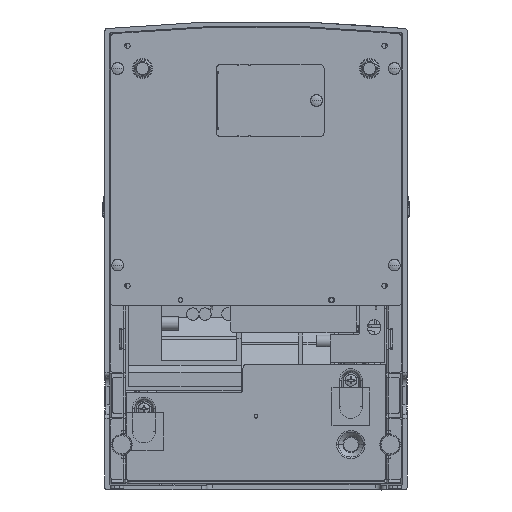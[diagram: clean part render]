
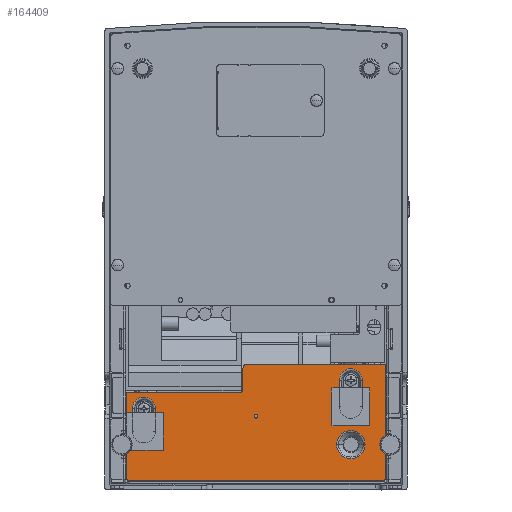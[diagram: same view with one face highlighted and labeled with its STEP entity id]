
A CAD part, front view. The second image highlights one B-rep face of the part: STEP entity #164409.
In plain terms, the highlighted planar face has unit normal (0, -1, 0).
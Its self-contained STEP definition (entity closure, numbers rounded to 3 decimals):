
#154114=CARTESIAN_POINT('',(0.,-56.4,-104.));
#154115=DIRECTION('',(0.,1.,0.));
#154116=DIRECTION('',(-1.,0.,0.));
#154117=AXIS2_PLACEMENT_3D('',#154114,#154115,#154116);
#154119=CARTESIAN_POINT('',(0.,-56.4,-104.));
#154120=DIRECTION('',(0.,1.,0.));
#154121=DIRECTION('',(1.,0.,0.));
#154122=AXIS2_PLACEMENT_3D('',#154119,#154120,#154121);
#154124=CARTESIAN_POINT('',(50.2,-56.4,-119.));
#154125=DIRECTION('',(0.,1.,0.));
#154126=DIRECTION('',(1.,0.,0.));
#154127=AXIS2_PLACEMENT_3D('',#154124,#154125,#154126);
#154129=CARTESIAN_POINT('',(50.2,-56.4,-119.));
#154130=DIRECTION('',(0.,1.,0.));
#154131=DIRECTION('',(-1.,0.,0.));
#154132=AXIS2_PLACEMENT_3D('',#154129,#154130,#154131);
#154134=DIRECTION('',(0.,0.,1.));
#154135=VECTOR('',#154134,14.);
#154136=CARTESIAN_POINT('',(44.098,-56.4,-99.));
#154137=LINE('',#154136,#154135);
#154138=CARTESIAN_POINT('',(50.2,-56.4,-99.));
#154139=DIRECTION('',(0.,1.,0.));
#154140=DIRECTION('',(1.,0.,0.));
#154141=AXIS2_PLACEMENT_3D('',#154138,#154139,#154140);
#154143=DIRECTION('',(0.,0.,-1.));
#154144=VECTOR('',#154143,14.);
#154145=CARTESIAN_POINT('',(56.302,-56.4,-85.));
#154146=LINE('',#154145,#154144);
#154147=CARTESIAN_POINT('',(50.2,-56.4,-85.));
#154148=DIRECTION('',(0.,-1.,0.));
#154149=DIRECTION('',(1.,0.,0.));
#154150=AXIS2_PLACEMENT_3D('',#154147,#154148,#154149);
#154152=CARTESIAN_POINT('',(-59.3,-56.4,-112.));
#154153=DIRECTION('',(0.,1.,0.));
#154154=DIRECTION('',(1.,0.,0.));
#154155=AXIS2_PLACEMENT_3D('',#154152,#154153,#154154);
#154157=DIRECTION('',(0.,0.,-1.));
#154158=VECTOR('',#154157,12.);
#154159=CARTESIAN_POINT('',(-53.198,-56.4,-100.));
#154160=LINE('',#154159,#154158);
#154161=CARTESIAN_POINT('',(-59.3,-56.4,-100.));
#154162=DIRECTION('',(0.,-1.,0.));
#154163=DIRECTION('',(1.,0.,0.));
#154164=AXIS2_PLACEMENT_3D('',#154161,#154162,#154163);
#154166=DIRECTION('',(0.,0.,1.));
#154167=VECTOR('',#154166,12.);
#154168=CARTESIAN_POINT('',(-65.402,-56.4,-112.));
#154169=LINE('',#154168,#154167);
#154399=DIRECTION('',(-1.,0.,0.));
#154400=VECTOR('',#154399,0.2);
#154401=CARTESIAN_POINT('',(68.7,-56.4,-137.5));
#154402=LINE('',#154401,#154400);
#154403=DIRECTION('',(0.,0.,1.));
#154404=VECTOR('',#154403,0.2);
#154405=CARTESIAN_POINT('',(68.,-56.4,-138.2));
#154406=LINE('',#154405,#154404);
#154407=DIRECTION('',(-1.,0.,0.));
#154408=VECTOR('',#154407,136.);
#154409=CARTESIAN_POINT('',(68.,-56.4,-138.2));
#154410=LINE('',#154409,#154408);
#154411=DIRECTION('',(0.,0.,1.));
#154412=VECTOR('',#154411,0.2);
#154413=CARTESIAN_POINT('',(-68.,-56.4,-138.2));
#154414=LINE('',#154413,#154412);
#154415=DIRECTION('',(1.,0.,0.));
#154416=VECTOR('',#154415,0.2);
#154417=CARTESIAN_POINT('',(-68.7,-56.4,-137.5));
#154418=LINE('',#154417,#154416);
#154419=DIRECTION('',(0.,0.,1.));
#154420=VECTOR('',#154419,46.);
#154421=CARTESIAN_POINT('',(-68.7,-56.4,-137.5));
#154422=LINE('',#154421,#154420);
#154423=DIRECTION('',(1.,0.,0.));
#154424=VECTOR('',#154423,59.8);
#154425=CARTESIAN_POINT('',(-68.7,-56.4,-91.5));
#154426=LINE('',#154425,#154424);
#154427=DIRECTION('',(0.,0.,-1.));
#154428=VECTOR('',#154427,11.);
#154429=CARTESIAN_POINT('',(-6.9,-56.4,-78.5));
#154430=LINE('',#154429,#154428);
#154431=DIRECTION('',(1.,0.,0.));
#154432=VECTOR('',#154431,73.6);
#154433=CARTESIAN_POINT('',(-4.9,-56.4,-76.5));
#154434=LINE('',#154433,#154432);
#154435=DIRECTION('',(0.,0.,-1.));
#154436=VECTOR('',#154435,61.);
#154437=CARTESIAN_POINT('',(68.7,-56.4,-76.5));
#154438=LINE('',#154437,#154436);
#158614=CARTESIAN_POINT('',(-4.9,-56.4,-78.5));
#158615=DIRECTION('',(0.,-1.,0.));
#158616=DIRECTION('',(0.,0.,1.));
#158617=AXIS2_PLACEMENT_3D('',#158614,#158615,#158616);
#158641=CARTESIAN_POINT('',(-8.9,-56.4,-89.5));
#158642=DIRECTION('',(0.,1.,0.));
#158643=DIRECTION('',(1.,0.,0.));
#158644=AXIS2_PLACEMENT_3D('',#158641,#158642,#158643);
#158803=CARTESIAN_POINT('',(68.5,-56.4,-138.));
#158804=DIRECTION('',(0.,1.,0.));
#158805=DIRECTION('',(-1.,0.,0.));
#158806=AXIS2_PLACEMENT_3D('',#158803,#158804,#158805);
#158821=CARTESIAN_POINT('',(-68.5,-56.4,-138.));
#158822=DIRECTION('',(0.,1.,0.));
#158823=DIRECTION('',(0.,0.,1.));
#158824=AXIS2_PLACEMENT_3D('',#158821,#158822,#158823);
#161771=CARTESIAN_POINT('',(68.7,-56.4,-137.5));
#161773=VERTEX_POINT('',#161771);
#161783=CARTESIAN_POINT('',(-68.7,-56.4,-137.5));
#161785=VERTEX_POINT('',#161783);
#161818=CARTESIAN_POINT('',(68.,-56.4,-138.2));
#161819=VERTEX_POINT('',#161818);
#161820=CARTESIAN_POINT('',(-68.,-56.4,-138.2));
#161821=VERTEX_POINT('',#161820);
#161931=CARTESIAN_POINT('',(-68.7,-56.4,-91.5));
#161933=VERTEX_POINT('',#161931);
#161940=CARTESIAN_POINT('',(68.7,-56.4,-76.5));
#161941=VERTEX_POINT('',#161940);
#162742=CARTESIAN_POINT('',(-53.198,-56.4,-112.));
#162743=CARTESIAN_POINT('',(-65.402,-56.4,-112.));
#162744=VERTEX_POINT('',#162742);
#162745=VERTEX_POINT('',#162743);
#162803=CARTESIAN_POINT('',(-8.9,-56.4,-91.5));
#162805=VERTEX_POINT('',#162803);
#162807=CARTESIAN_POINT('',(-6.9,-56.4,-89.5));
#162809=VERTEX_POINT('',#162807);
#162810=CARTESIAN_POINT('',(-4.9,-56.4,-76.5));
#162812=VERTEX_POINT('',#162810);
#162814=CARTESIAN_POINT('',(-6.9,-56.4,-78.5));
#162815=VERTEX_POINT('',#162814);
#162899=CARTESIAN_POINT('',(68.5,-56.4,-137.5));
#162901=VERTEX_POINT('',#162899);
#162903=CARTESIAN_POINT('',(68.,-56.4,-138.));
#162905=VERTEX_POINT('',#162903);
#162907=CARTESIAN_POINT('',(-68.,-56.4,-138.));
#162909=VERTEX_POINT('',#162907);
#162911=CARTESIAN_POINT('',(-68.5,-56.4,-137.5));
#162913=VERTEX_POINT('',#162911);
#163286=CARTESIAN_POINT('',(-1.,-56.4,-104.));
#163287=CARTESIAN_POINT('',(1.,-56.4,-104.));
#163288=VERTEX_POINT('',#163286);
#163289=VERTEX_POINT('',#163287);
#163870=CARTESIAN_POINT('',(57.674,-56.4,-119.));
#163871=CARTESIAN_POINT('',(42.726,-56.4,-119.));
#163872=VERTEX_POINT('',#163870);
#163873=VERTEX_POINT('',#163871);
#163934=CARTESIAN_POINT('',(-65.402,-56.4,-100.));
#163935=VERTEX_POINT('',#163934);
#163936=CARTESIAN_POINT('',(-53.198,-56.4,-100.));
#163937=VERTEX_POINT('',#163936);
#163994=CARTESIAN_POINT('',(44.098,-56.4,-99.));
#163995=CARTESIAN_POINT('',(44.098,-56.4,-85.));
#163996=VERTEX_POINT('',#163994);
#163997=VERTEX_POINT('',#163995);
#163998=CARTESIAN_POINT('',(56.302,-56.4,-85.));
#163999=VERTEX_POINT('',#163998);
#164000=CARTESIAN_POINT('',(56.302,-56.4,-99.));
#164001=VERTEX_POINT('',#164000);
#164342=CARTESIAN_POINT('',(0.,-56.4,96.));
#164343=DIRECTION('',(0.,1.,0.));
#164344=DIRECTION('',(1.,0.,0.));
#164345=AXIS2_PLACEMENT_3D('',#164342,#164343,#164344);
#164346=PLANE('',#164345);
#164348=ORIENTED_EDGE('',*,*,#164347,.T.);
#164350=ORIENTED_EDGE('',*,*,#164349,.F.);
#164352=ORIENTED_EDGE('',*,*,#164351,.F.);
#164354=ORIENTED_EDGE('',*,*,#164353,.T.);
#164356=ORIENTED_EDGE('',*,*,#164355,.T.);
#164358=ORIENTED_EDGE('',*,*,#164357,.F.);
#164360=ORIENTED_EDGE('',*,*,#164359,.F.);
#164362=ORIENTED_EDGE('',*,*,#164361,.T.);
#164364=ORIENTED_EDGE('',*,*,#164363,.T.);
#164366=ORIENTED_EDGE('',*,*,#164365,.F.);
#164368=ORIENTED_EDGE('',*,*,#164367,.F.);
#164370=ORIENTED_EDGE('',*,*,#164369,.F.);
#164372=ORIENTED_EDGE('',*,*,#164371,.T.);
#164374=ORIENTED_EDGE('',*,*,#164373,.T.);
#164375=EDGE_LOOP('',(#164348,#164350,#164352,#164354,#164356,#164358,#164360,
#164362,#164364,#164366,#164368,#164370,#164372,#164374));
#164376=FACE_OUTER_BOUND('',#164375,.F.);
#164378=ORIENTED_EDGE('',*,*,#164377,.F.);
#164380=ORIENTED_EDGE('',*,*,#164379,.F.);
#164381=EDGE_LOOP('',(#164378,#164380));
#164382=FACE_BOUND('',#164381,.F.);
#164384=ORIENTED_EDGE('',*,*,#164383,.F.);
#164386=ORIENTED_EDGE('',*,*,#164385,.F.);
#164387=EDGE_LOOP('',(#164384,#164386));
#164388=FACE_BOUND('',#164387,.F.);
#164390=ORIENTED_EDGE('',*,*,#164389,.F.);
#164392=ORIENTED_EDGE('',*,*,#164391,.F.);
#164394=ORIENTED_EDGE('',*,*,#164393,.F.);
#164396=ORIENTED_EDGE('',*,*,#164395,.T.);
#164397=EDGE_LOOP('',(#164390,#164392,#164394,#164396));
#164398=FACE_BOUND('',#164397,.F.);
#164400=ORIENTED_EDGE('',*,*,#164399,.F.);
#164402=ORIENTED_EDGE('',*,*,#164401,.F.);
#164404=ORIENTED_EDGE('',*,*,#164403,.T.);
#164406=ORIENTED_EDGE('',*,*,#164405,.F.);
#164407=EDGE_LOOP('',(#164400,#164402,#164404,#164406));
#164408=FACE_BOUND('',#164407,.F.);
#154118=CIRCLE('',#154117,1.);
#154123=CIRCLE('',#154122,1.);
#154128=CIRCLE('',#154127,7.474);
#154133=CIRCLE('',#154132,7.474);
#154142=CIRCLE('',#154141,6.102);
#154151=CIRCLE('',#154150,6.102);
#154156=CIRCLE('',#154155,6.102);
#154165=CIRCLE('',#154164,6.102);
#158618=CIRCLE('',#158617,2.);
#158645=CIRCLE('',#158644,2.);
#158807=CIRCLE('',#158806,0.5);
#158825=CIRCLE('',#158824,0.5);
#164347=EDGE_CURVE('',#161773,#162901,#154402,.T.);
#164349=EDGE_CURVE('',#162905,#162901,#158807,.T.);
#164351=EDGE_CURVE('',#161819,#162905,#154406,.T.);
#164353=EDGE_CURVE('',#161819,#161821,#154410,.T.);
#164355=EDGE_CURVE('',#161821,#162909,#154414,.T.);
#164357=EDGE_CURVE('',#162913,#162909,#158825,.T.);
#164359=EDGE_CURVE('',#161785,#162913,#154418,.T.);
#164361=EDGE_CURVE('',#161785,#161933,#154422,.T.);
#164363=EDGE_CURVE('',#161933,#162805,#154426,.T.);
#164365=EDGE_CURVE('',#162809,#162805,#158645,.T.);
#164367=EDGE_CURVE('',#162815,#162809,#154430,.T.);
#164369=EDGE_CURVE('',#162812,#162815,#158618,.T.);
#164371=EDGE_CURVE('',#162812,#161941,#154434,.T.);
#164373=EDGE_CURVE('',#161941,#161773,#154438,.T.);
#164377=EDGE_CURVE('',#163288,#163289,#154118,.T.);
#164379=EDGE_CURVE('',#163289,#163288,#154123,.T.);
#164383=EDGE_CURVE('',#163872,#163873,#154128,.T.);
#164385=EDGE_CURVE('',#163873,#163872,#154133,.T.);
#164389=EDGE_CURVE('',#163996,#163997,#154137,.T.);
#164391=EDGE_CURVE('',#164001,#163996,#154142,.T.);
#164393=EDGE_CURVE('',#163999,#164001,#154146,.T.);
#164395=EDGE_CURVE('',#163999,#163997,#154151,.T.);
#164399=EDGE_CURVE('',#162744,#162745,#154156,.T.);
#164401=EDGE_CURVE('',#163937,#162744,#154160,.T.);
#164403=EDGE_CURVE('',#163937,#163935,#154165,.T.);
#164405=EDGE_CURVE('',#162745,#163935,#154169,.T.);
#164409=ADVANCED_FACE('',(#164376,#164382,#164388,#164398,#164408),#164346,.F.);
